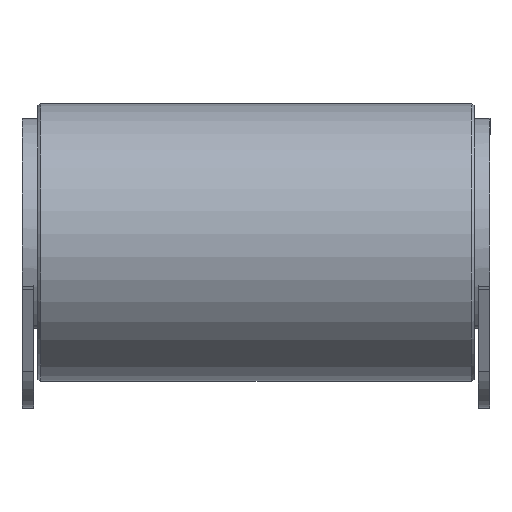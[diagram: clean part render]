
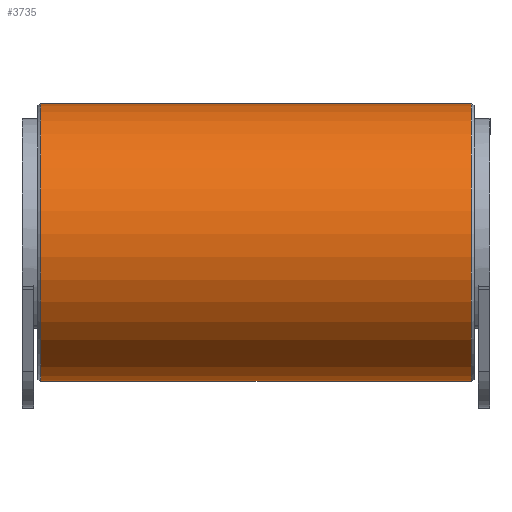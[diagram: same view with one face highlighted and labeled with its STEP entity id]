
A CAD part, left-side view. The second image highlights one B-rep face of the part: STEP entity #3735.
In plain terms, the highlighted cylindrical face has radius 70 mm (diameter 140 mm), a partial arc.
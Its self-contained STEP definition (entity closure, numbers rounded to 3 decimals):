
#88=CYLINDRICAL_SURFACE('',#4086,70.);
#145=CIRCLE('',#4084,70.);
#147=CIRCLE('',#4087,70.);
#292=FACE_OUTER_BOUND('',#487,.T.);
#487=EDGE_LOOP('',(#2500,#2501,#2502,#2503));
#725=LINE('',#5555,#1142);
#730=LINE('',#5575,#1147);
#1142=VECTOR('',#4450,10.);
#1147=VECTOR('',#4473,10.);
#1557=VERTEX_POINT('',#5547);
#1559=VERTEX_POINT('',#5553);
#1563=VERTEX_POINT('',#5567);
#1565=VERTEX_POINT('',#5573);
#1931=EDGE_CURVE('',#1557,#1559,#725,.T.);
#1937=EDGE_CURVE('',#1563,#1557,#145,.T.);
#1940=EDGE_CURVE('',#1565,#1559,#147,.T.);
#1941=EDGE_CURVE('',#1563,#1565,#730,.T.);
#2500=ORIENTED_EDGE('',*,*,#1931,.T.);
#2501=ORIENTED_EDGE('',*,*,#1940,.F.);
#2502=ORIENTED_EDGE('',*,*,#1941,.F.);
#2503=ORIENTED_EDGE('',*,*,#1937,.T.);
#3735=ADVANCED_FACE('',(#292),#88,.T.);
#4084=AXIS2_PLACEMENT_3D('',#5568,#4464,#4465);
#4086=AXIS2_PLACEMENT_3D('',#5572,#4469,#4470);
#4087=AXIS2_PLACEMENT_3D('',#5574,#4471,#4472);
#4450=DIRECTION('',(1.,0.,0.));
#4464=DIRECTION('center_axis',(1.,0.,0.));
#4465=DIRECTION('ref_axis',(0.,1.,0.));
#4469=DIRECTION('center_axis',(1.,0.,0.));
#4470=DIRECTION('ref_axis',(0.,-0.19,0.982));
#4471=DIRECTION('center_axis',(1.,0.,0.));
#4472=DIRECTION('ref_axis',(0.,1.,0.));
#4473=DIRECTION('',(1.,0.,0.));
#5547=CARTESIAN_POINT('',(-108.5,-134.958,413.914));
#5553=CARTESIAN_POINT('',(108.5,-134.958,413.914));
#5555=CARTESIAN_POINT('',(108.5,-134.958,413.914));
#5567=CARTESIAN_POINT('',(-108.5,0.,440.));
#5568=CARTESIAN_POINT('Origin',(-108.5,-70.,440.));
#5572=CARTESIAN_POINT('Origin',(0.,-70.,440.));
#5573=CARTESIAN_POINT('',(108.5,0.,440.));
#5574=CARTESIAN_POINT('Origin',(108.5,-70.,440.));
#5575=CARTESIAN_POINT('',(108.5,0.,440.));
